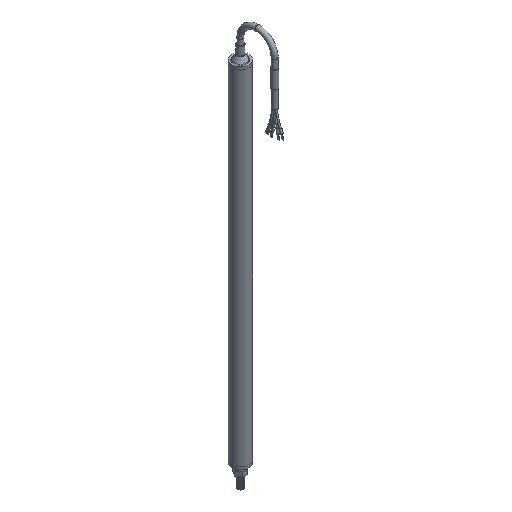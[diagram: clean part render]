
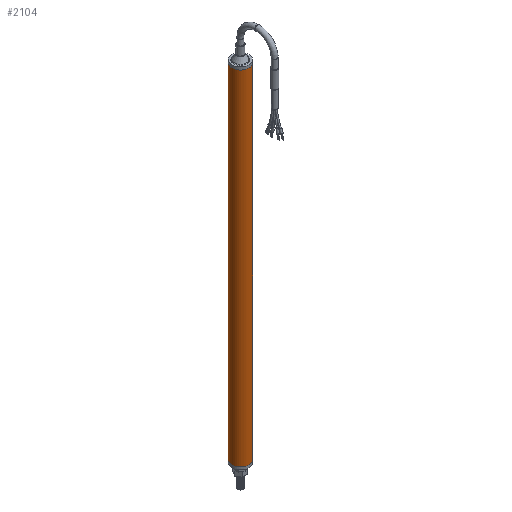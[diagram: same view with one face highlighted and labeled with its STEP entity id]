
A CAD part, isometric view. The second image highlights one B-rep face of the part: STEP entity #2104.
In plain terms, the highlighted cylindrical face has radius 6.35 mm (diameter 12.7 mm), a full revolution.
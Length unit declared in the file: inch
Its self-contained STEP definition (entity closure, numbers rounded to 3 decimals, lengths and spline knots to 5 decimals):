
#98=LINE('',#3305,#245);
#245=VECTOR('',#2707,0.25);
#391=CYLINDRICAL_SURFACE('',#2422,0.25);
#462=FACE_OUTER_BOUND('',#600,.T.);
#600=EDGE_LOOP('',(#1364,#1365,#1366,#1367,#1368));
#744=CIRCLE('',#2410,0.25);
#745=CIRCLE('',#2411,0.25);
#750=CIRCLE('',#2420,0.25);
#846=VERTEX_POINT('',#3282);
#847=VERTEX_POINT('',#3284);
#852=VERTEX_POINT('',#3300);
#1043=EDGE_CURVE('',#847,#846,#744,.T.);
#1044=EDGE_CURVE('',#846,#847,#745,.T.);
#1051=EDGE_CURVE('',#852,#852,#750,.T.);
#1052=EDGE_CURVE('',#852,#847,#98,.T.);
#1364=ORIENTED_EDGE('',*,*,#1051,.F.);
#1365=ORIENTED_EDGE('',*,*,#1052,.T.);
#1366=ORIENTED_EDGE('',*,*,#1043,.T.);
#1367=ORIENTED_EDGE('',*,*,#1044,.T.);
#1368=ORIENTED_EDGE('',*,*,#1052,.F.);
#2104=ADVANCED_FACE('',(#462),#391,.T.);
#2410=AXIS2_PLACEMENT_3D('',#3285,#2679,#2680);
#2411=AXIS2_PLACEMENT_3D('',#3286,#2681,#2682);
#2420=AXIS2_PLACEMENT_3D('',#3302,#2701,#2702);
#2422=AXIS2_PLACEMENT_3D('',#3304,#2705,#2706);
#2679=DIRECTION('center_axis',(0.,0.,-1.));
#2680=DIRECTION('ref_axis',(-1.,0.,0.));
#2681=DIRECTION('center_axis',(0.,0.,-1.));
#2682=DIRECTION('ref_axis',(-1.,0.,0.));
#2701=DIRECTION('center_axis',(0.,0.,-1.));
#2702=DIRECTION('ref_axis',(-1.,0.,0.));
#2705=DIRECTION('center_axis',(0.,0.,-1.));
#2706=DIRECTION('ref_axis',(-1.,0.,0.));
#2707=DIRECTION('',(0.,0.,1.));
#3282=CARTESIAN_POINT('',(0.,0.25,0.));
#3284=CARTESIAN_POINT('',(0.25,0.,0.));
#3285=CARTESIAN_POINT('Origin',(0.,0.,0.));
#3286=CARTESIAN_POINT('Origin',(0.,0.,0.));
#3300=CARTESIAN_POINT('',(0.25,0.,-9.88189));
#3302=CARTESIAN_POINT('Origin',(0.,0.,-9.88189));
#3304=CARTESIAN_POINT('Origin',(0.,0.,0.));
#3305=CARTESIAN_POINT('',(0.25,0.,0.));
